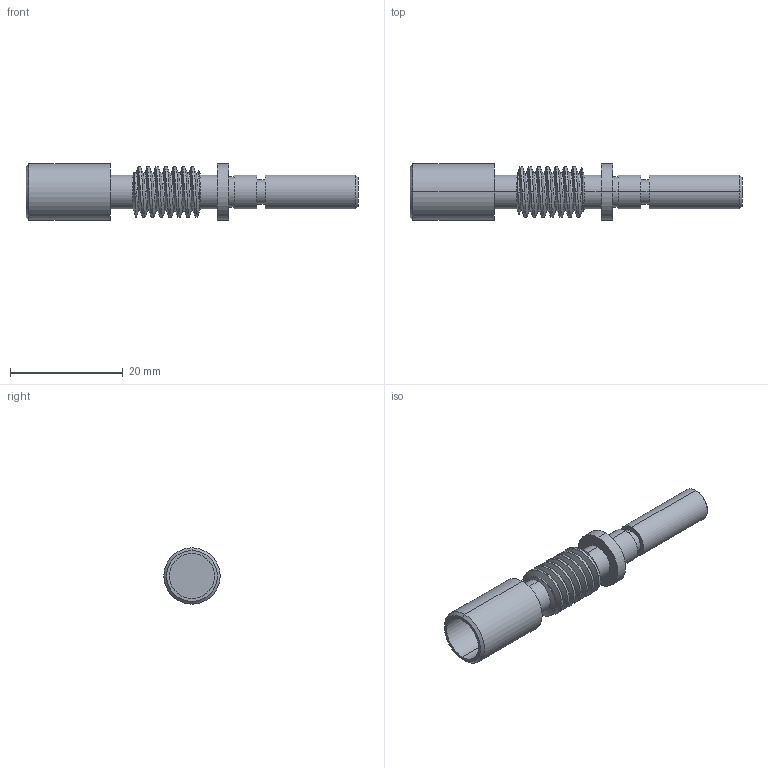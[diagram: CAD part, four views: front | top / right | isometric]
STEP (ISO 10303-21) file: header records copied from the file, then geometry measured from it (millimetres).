
FILE_DESCRIPTION (( 'STEP AP203' ), '1' );
FILE_NAME ('AMXY.09.02.1247 - ×åðâÿê.STEP', '2024-04-25T09:06:56', ( 'user' ), ( '' ), 'SwSTEP 2.0', 'SolidWorks 2022', '' );
FILE_SCHEMA (( 'CONFIG_CONTROL_DESIGN' ));
Length unit declared in the file: millimetre
Products named in the file (1): AMXY.09.02.1247 - ×åðâÿê
Bounding box: 59 x 10 x 10 mm (x, y, z)
Volume: 2141.6 mm3; surface area: 2275.1 mm2
Topology: 1 solids, 1 shells, 54 faces, 125 edges, 80 vertices
Faces by surface type: cylinder 34, plane 9, cone 8, bspline 3
Entity records: 2824 total; most frequent: CARTESIAN_POINT 1597, ORIENTED_EDGE 250, DIRECTION 234, EDGE_CURVE 125, AXIS2_PLACEMENT_3D 96, VERTEX_POINT 80, EDGE_LOOP 61, FACE_OUTER_BOUND 54
